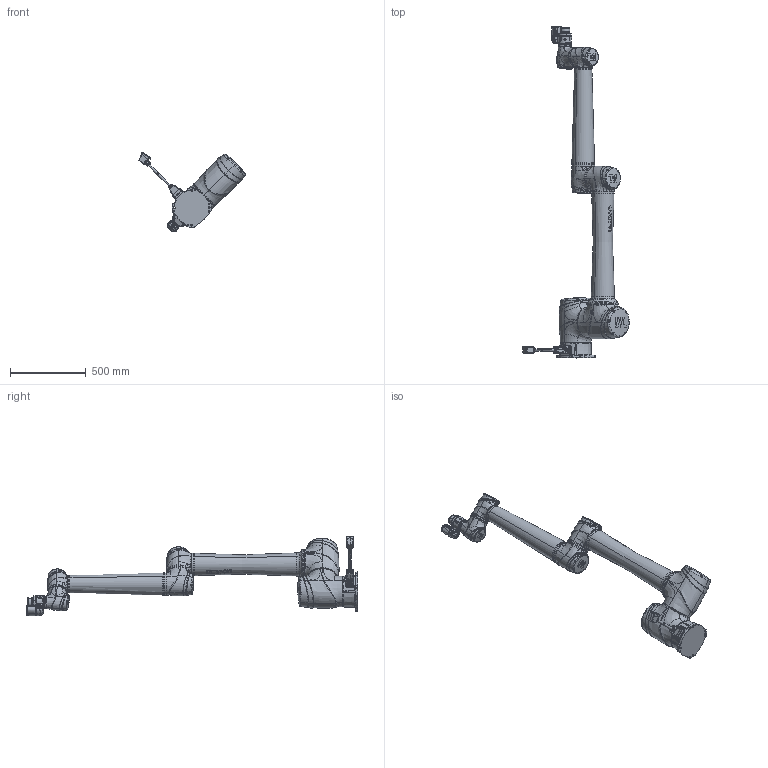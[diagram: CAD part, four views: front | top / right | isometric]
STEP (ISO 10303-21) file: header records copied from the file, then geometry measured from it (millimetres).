
FILE_DESCRIPTION((''),'2;1');
FILE_NAME('TM25S-A_ASM','2025-11-27T',('sean.lour'),(''),'CREO PARAMETRIC BY PTC INC, 2015290','CREO PARAMETRIC BY PTC INC, 2015290','');
FILE_SCHEMA(('AUTOMOTIVE_DESIGN { 1 0 10303 214 1 1 1 1 }'));
Products named in the file (49): TSBB; CT1; CT2; CT-A_ASM; CTA3D; CT1AD; PCS_ASM; CA; CTA; COA_ASM; PCH_ASM; TSBB-A_ASM; J9H; J9C; S4; J9-A_ASM; T25A1M; TBS-A1R1; TBS-A1R2; T25_ARM1_ASM; J8H; J8C; J8D; J8R; J8F; S3W; J8-A_ASM; J8LO; T25O; T25-A1_ASM; T25A2M; TBS-A2R; T25_ARM2_ASM; J5H; J5C; J5R; J5D; J5F; J5-A_ASM; J5LO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
Assembly tree (66 placements, depth 5):
  TM25S-A_ASM
    TSBB-A_ASM
      TSBB
      PCH_ASM
        CT-A_ASM
          CT1
          CT2
        PCS_ASM
          CTA3D
          CT1AD
        COA_ASM
          CA
          CTA
    J9-A_ASM
      J9H
      J9C
      S4  x6
    T25-A1_ASM
      J9-A_ASM
        J9H
        J9C
        S4  x6
      T25_ARM1_ASM
        T25A1M
        TBS-A1R1
        TBS-A1R2
      J8-A_ASM
        J8H
        J8C
        J8D
        J8R
        J8F
        S3W  x4
      J8LO
      T25O
    J8-A_ASM
      J8H
      J8C
      J8D
      J8R
      J8F
      S3W  x4
    T25-A2_ASM
      T25_ARM2_ASM
        T25A2M
        TBS-A2R
      J5-A_ASM
        J5H
        J5C
        J5R
        J5D
        J5F
        S3W  x4
      J5LO
    TBS-J2-A_ASM
      TBS-J2-H
      TBS-J2-C
      J2R
      J2D
      J2F
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Bounding box: 701.56 x 2188.5 x 525.03 mm (x, y, z)
Volume: 55641751.2 mm3; surface area: 2652072.2 mm2
Topology: 82 solids, 99 shells, 4865 faces, 11817 edges, 7362 vertices
Faces by surface type: bspline 1757, cylinder 1277, plane 1048, cone 398, torus 312, extrusion 31, sphere 24, revolution 18
Entity records: 269133 total; most frequent: CARTESIAN_POINT 161013, ORIENTED_EDGE 16890, DIRECTION 11645, EDGE_CURVE 8445, PRESENTATION_STYLE_ASSIGNMENT 7925, STYLED_ITEM 7925, CURVE_STYLE 5425, VERTEX_POINT 5212
